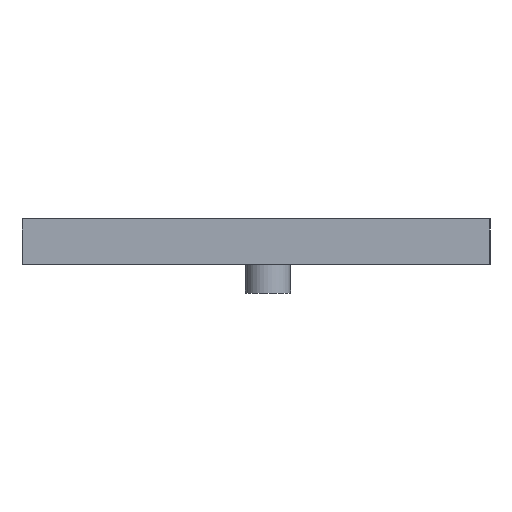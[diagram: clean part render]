
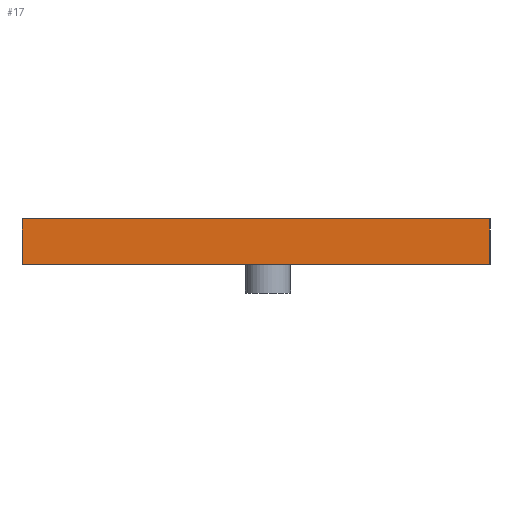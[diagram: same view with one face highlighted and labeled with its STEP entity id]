
A CAD part, left-side view. The second image highlights one B-rep face of the part: STEP entity #17.
In plain terms, the highlighted planar face has unit normal (-1, 0, 0).
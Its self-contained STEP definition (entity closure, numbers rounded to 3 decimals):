
#17 = ADVANCED_FACE('',(#18),#32,.F.);
#18 = FACE_BOUND('',#19,.F.);
#19 = EDGE_LOOP('',(#20,#55,#83,#111));
#20 = ORIENTED_EDGE('',*,*,#21,.F.);
#21 = EDGE_CURVE('',#22,#24,#26,.T.);
#22 = VERTEX_POINT('',#23);
#23 = CARTESIAN_POINT('',(-60.,-133.,150.));
#24 = VERTEX_POINT('',#25);
#25 = CARTESIAN_POINT('',(-60.,-133.,156.));
#26 = SURFACE_CURVE('',#27,(#31,#43),.PCURVE_S1.);
#27 = LINE('',#28,#29);
#28 = CARTESIAN_POINT('',(-60.,-133.,150.));
#29 = VECTOR('',#30,1.);
#30 = DIRECTION('',(0.,0.,1.));
#31 = PCURVE('',#32,#37);
#32 = PLANE('',#33);
#33 = AXIS2_PLACEMENT_3D('',#34,#35,#36);
#34 = CARTESIAN_POINT('',(-60.,-133.,150.));
#35 = DIRECTION('',(1.,0.,0.));
#36 = DIRECTION('',(0.,0.,1.));
#37 = DEFINITIONAL_REPRESENTATION('',(#38),#42);
#38 = LINE('',#39,#40);
#39 = CARTESIAN_POINT('',(0.,0.));
#40 = VECTOR('',#41,1.);
#41 = DIRECTION('',(1.,0.));
#42 = ( GEOMETRIC_REPRESENTATION_CONTEXT(2) 
PARAMETRIC_REPRESENTATION_CONTEXT() REPRESENTATION_CONTEXT('2D SPACE',''
  ) );
#43 = PCURVE('',#44,#49);
#44 = PLANE('',#45);
#45 = AXIS2_PLACEMENT_3D('',#46,#47,#48);
#46 = CARTESIAN_POINT('',(-60.,-133.,150.));
#47 = DIRECTION('',(0.,1.,0.));
#48 = DIRECTION('',(0.,0.,1.));
#49 = DEFINITIONAL_REPRESENTATION('',(#50),#54);
#50 = LINE('',#51,#52);
#51 = CARTESIAN_POINT('',(0.,0.));
#52 = VECTOR('',#53,1.);
#53 = DIRECTION('',(1.,0.));
#54 = ( GEOMETRIC_REPRESENTATION_CONTEXT(2) 
PARAMETRIC_REPRESENTATION_CONTEXT() REPRESENTATION_CONTEXT('2D SPACE',''
  ) );
#55 = ORIENTED_EDGE('',*,*,#56,.T.);
#56 = EDGE_CURVE('',#22,#57,#59,.T.);
#57 = VERTEX_POINT('',#58);
#58 = CARTESIAN_POINT('',(-60.,-71.,150.));
#59 = SURFACE_CURVE('',#60,(#64,#71),.PCURVE_S1.);
#60 = LINE('',#61,#62);
#61 = CARTESIAN_POINT('',(-60.,-133.,150.));
#62 = VECTOR('',#63,1.);
#63 = DIRECTION('',(0.,1.,0.));
#64 = PCURVE('',#32,#65);
#65 = DEFINITIONAL_REPRESENTATION('',(#66),#70);
#66 = LINE('',#67,#68);
#67 = CARTESIAN_POINT('',(0.,0.));
#68 = VECTOR('',#69,1.);
#69 = DIRECTION('',(0.,-1.));
#70 = ( GEOMETRIC_REPRESENTATION_CONTEXT(2) 
PARAMETRIC_REPRESENTATION_CONTEXT() REPRESENTATION_CONTEXT('2D SPACE',''
  ) );
#71 = PCURVE('',#72,#77);
#72 = PLANE('',#73);
#73 = AXIS2_PLACEMENT_3D('',#74,#75,#76);
#74 = CARTESIAN_POINT('',(-60.,-133.,150.));
#75 = DIRECTION('',(0.,0.,1.));
#76 = DIRECTION('',(1.,0.,0.));
#77 = DEFINITIONAL_REPRESENTATION('',(#78),#82);
#78 = LINE('',#79,#80);
#79 = CARTESIAN_POINT('',(0.,0.));
#80 = VECTOR('',#81,1.);
#81 = DIRECTION('',(0.,1.));
#82 = ( GEOMETRIC_REPRESENTATION_CONTEXT(2) 
PARAMETRIC_REPRESENTATION_CONTEXT() REPRESENTATION_CONTEXT('2D SPACE',''
  ) );
#83 = ORIENTED_EDGE('',*,*,#84,.T.);
#84 = EDGE_CURVE('',#57,#85,#87,.T.);
#85 = VERTEX_POINT('',#86);
#86 = CARTESIAN_POINT('',(-60.,-71.,156.));
#87 = SURFACE_CURVE('',#88,(#92,#99),.PCURVE_S1.);
#88 = LINE('',#89,#90);
#89 = CARTESIAN_POINT('',(-60.,-71.,150.));
#90 = VECTOR('',#91,1.);
#91 = DIRECTION('',(0.,0.,1.));
#92 = PCURVE('',#32,#93);
#93 = DEFINITIONAL_REPRESENTATION('',(#94),#98);
#94 = LINE('',#95,#96);
#95 = CARTESIAN_POINT('',(0.,-62.));
#96 = VECTOR('',#97,1.);
#97 = DIRECTION('',(1.,0.));
#98 = ( GEOMETRIC_REPRESENTATION_CONTEXT(2) 
PARAMETRIC_REPRESENTATION_CONTEXT() REPRESENTATION_CONTEXT('2D SPACE',''
  ) );
#99 = PCURVE('',#100,#105);
#100 = PLANE('',#101);
#101 = AXIS2_PLACEMENT_3D('',#102,#103,#104);
#102 = CARTESIAN_POINT('',(-60.,-71.,150.));
#103 = DIRECTION('',(0.,1.,0.));
#104 = DIRECTION('',(0.,0.,1.));
#105 = DEFINITIONAL_REPRESENTATION('',(#106),#110);
#106 = LINE('',#107,#108);
#107 = CARTESIAN_POINT('',(0.,0.));
#108 = VECTOR('',#109,1.);
#109 = DIRECTION('',(1.,0.));
#110 = ( GEOMETRIC_REPRESENTATION_CONTEXT(2) 
PARAMETRIC_REPRESENTATION_CONTEXT() REPRESENTATION_CONTEXT('2D SPACE',''
  ) );
#111 = ORIENTED_EDGE('',*,*,#112,.F.);
#112 = EDGE_CURVE('',#24,#85,#113,.T.);
#113 = SURFACE_CURVE('',#114,(#118,#125),.PCURVE_S1.);
#114 = LINE('',#115,#116);
#115 = CARTESIAN_POINT('',(-60.,-133.,156.));
#116 = VECTOR('',#117,1.);
#117 = DIRECTION('',(0.,1.,0.));
#118 = PCURVE('',#32,#119);
#119 = DEFINITIONAL_REPRESENTATION('',(#120),#124);
#120 = LINE('',#121,#122);
#121 = CARTESIAN_POINT('',(6.,0.));
#122 = VECTOR('',#123,1.);
#123 = DIRECTION('',(0.,-1.));
#124 = ( GEOMETRIC_REPRESENTATION_CONTEXT(2) 
PARAMETRIC_REPRESENTATION_CONTEXT() REPRESENTATION_CONTEXT('2D SPACE',''
  ) );
#125 = PCURVE('',#126,#131);
#126 = PLANE('',#127);
#127 = AXIS2_PLACEMENT_3D('',#128,#129,#130);
#128 = CARTESIAN_POINT('',(-60.,-133.,156.));
#129 = DIRECTION('',(0.,0.,1.));
#130 = DIRECTION('',(1.,0.,0.));
#131 = DEFINITIONAL_REPRESENTATION('',(#132),#136);
#132 = LINE('',#133,#134);
#133 = CARTESIAN_POINT('',(0.,0.));
#134 = VECTOR('',#135,1.);
#135 = DIRECTION('',(0.,1.));
#136 = ( GEOMETRIC_REPRESENTATION_CONTEXT(2) 
PARAMETRIC_REPRESENTATION_CONTEXT() REPRESENTATION_CONTEXT('2D SPACE',''
  ) );
